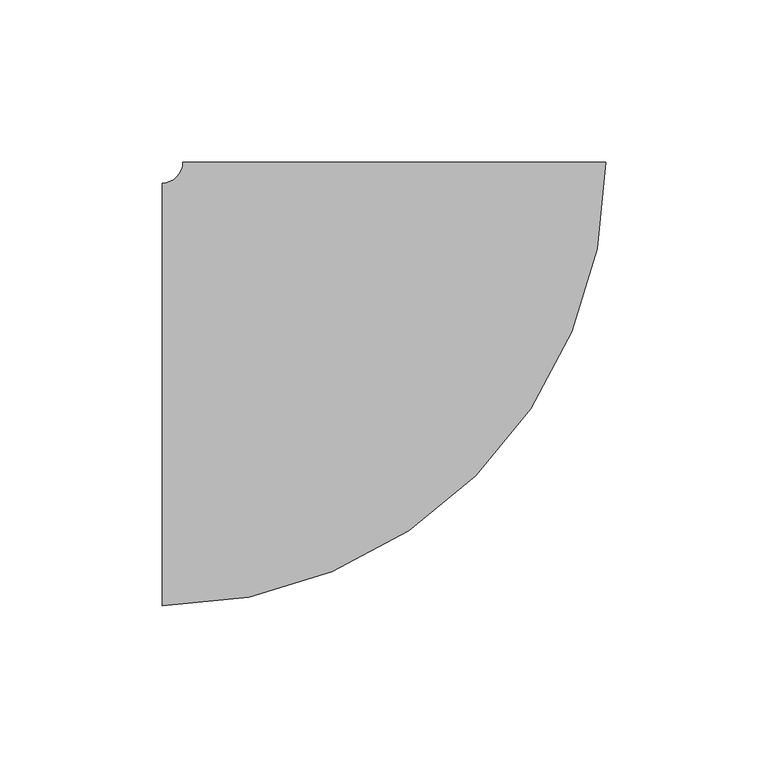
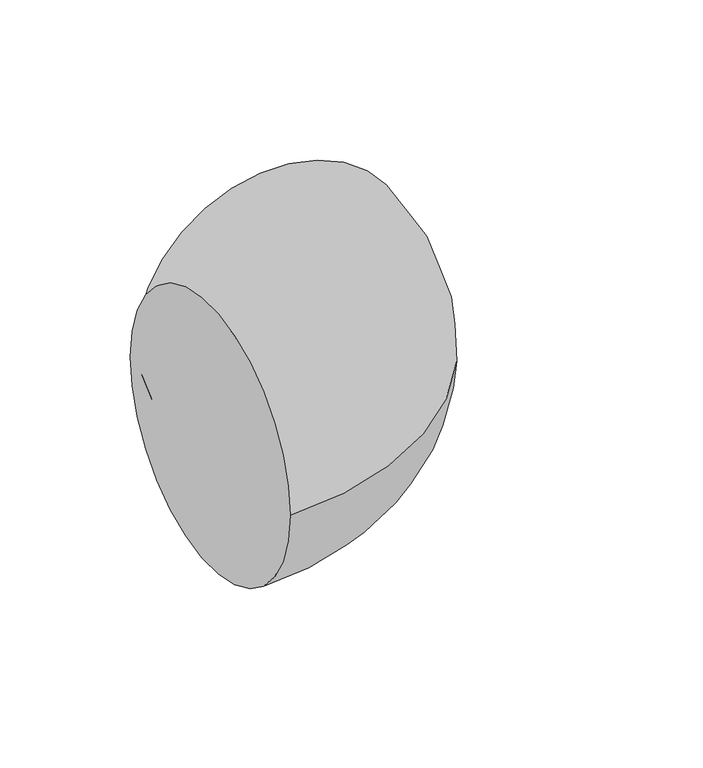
"""IFC4 building model written with IfcOpenShell, lengths in millimetres: pipe fitting geometry, M_Codo - Genérico : Estándar."""

from ifc_helpers import new_model, si_unit, point, frame, origin, place, context, project, spatial, circle_curve, ellipse_curve, trimmed, source, transform, mapped, element, save
from ifc_brep_helpers import plane_surface, revolved_surface, advanced_brep


def pipe_fitting_75141885(model_context):
    return source(origin(), model_context, "Body", "AdvancedBrep", [
        advanced_brep(
        [(-71.4404672, -65.0875, 0.0), (-71.4404672, 65.0875, 0.0), (65.0845327, 71.4431704, 0.0), (-65.0904672, 71.4377637, 0.0)],
        [
            (0, 1, circle_curve(frame((-71.4404672, 0.0, 0.0), z_axis=(-1.0, 0.0, 0.0), x_axis=(0.0, 1.0, 0.0)), 65.0875)),
            (1, 0, circle_curve(frame((-71.4404672, 0.0, 0.0), z_axis=(-1.0, 0.0, 0.0), x_axis=(0.0, 1.0, 0.0)), 65.0875)),
            (2, 3, circle_curve(frame((-0.0029672, 71.4404671, 0.0), z_axis=(-4.153409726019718e-05, 0.9999999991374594, 0.0), x_axis=(-0.9999999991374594, -4.153409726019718e-05, 0.0)), 65.0875)),
            (3, 2, circle_curve(frame((-0.0029672, 71.4404671, 0.0), z_axis=(-4.153409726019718e-05, 0.9999999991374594, 0.0), x_axis=(-0.9999999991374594, -4.153409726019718e-05, 0.0)), 65.0875)),
            (3, 1, circle_curve(frame((-71.4404672, 71.4375, 0.0), z_axis=(0.0, 0.0, -1.0), x_axis=(0.0, -1.0, 0.0)), 6.35)),
            (0, 2, circle_curve(frame((-71.4404672, 71.4375, 0.0), z_axis=(0.0, 0.0, 1.0), x_axis=(0.0, -1.0, 0.0)), 136.525)),
        ],
        [
            plane_surface(frame((-71.4404672, 0.0, 0.0), z_axis=(-1.0, 0.0, 0.0), x_axis=(0.0, 0.0, 1.0))),
            plane_surface(frame((-0.0029672, 71.4404671, 0.0), z_axis=(-4.153409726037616e-05, 0.9999999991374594, 0.0), x_axis=(0.0, 0.0, 1.0))),
            revolved_surface(trimmed(ellipse_curve(frame((-71.4404672, 0.0, 0.0), z_axis=(-1.0, 0.0, 0.0), x_axis=(0.0, 1.0, 0.0)), 65.0875, 65.0875), [point((-71.4404672, -65.0875, 0.0))], [point((-71.4404672, 65.0875, 0.0))], True, "CARTESIAN"), (-71.4404672, 71.4375, 0.0), (0.0, 0.0, 1.0)),
            revolved_surface(trimmed(ellipse_curve(frame((-71.4404672, 0.0, 0.0), z_axis=(-1.0, 0.0, 0.0), x_axis=(0.0, 1.0, 0.0)), 65.0875, 65.0875), [point((-71.4404672, 65.0875, 0.0))], [point((-71.4404672, -65.0875, 0.0))], True, "CARTESIAN"), (-71.4404672, 71.4375, 0.0), (0.0, 0.0, 1.0)),
        ],
        [
            (0, [[1, 2]]),
            (1, [[3, 4]]),
            (2, [[5, -1, 6, -4]]),
            (3, [[-6, -2, -5, -3]]),
        ],
    ),
    ])


if __name__ == "__main__":
    model = new_model("IFC4")
    model_context = context("Model", 3, world=origin())
    ifc_project = project(units=[si_unit("LENGTHUNIT", "METRE", prefix="MILLI")], contexts=[model_context])
    site = spatial("IfcSite", under=ifc_project)
    building = spatial("IfcBuilding", under=site)
    placement = place(None, origin())
    pipe_fitting_shape = pipe_fitting_75141885(model_context)
    element("IfcPipeFitting", 1, ObjectType="M_Codo - Genérico : Estándar", at=placement, inside=building, context=model_context, shape_type="MappedRepresentation", body=[
        mapped(pipe_fitting_shape, transform((0.0, 0.0, 0.0), x_axis=(1.0, 0.0, 0.0), y_axis=(0.0, 1.0, 0.0), z_axis=(0.0, 0.0, 1.0))),
    ])
    save(model, "model.ifc")
